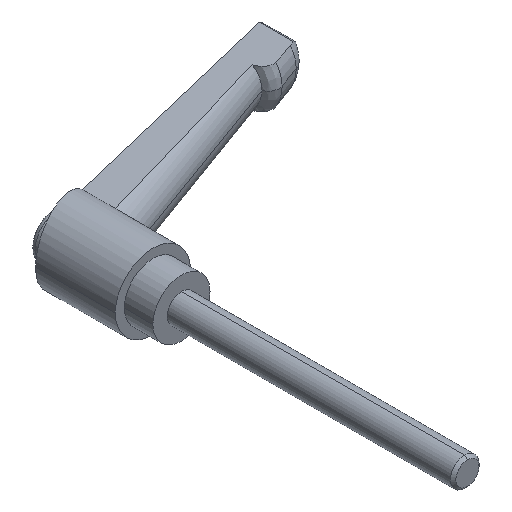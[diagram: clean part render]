
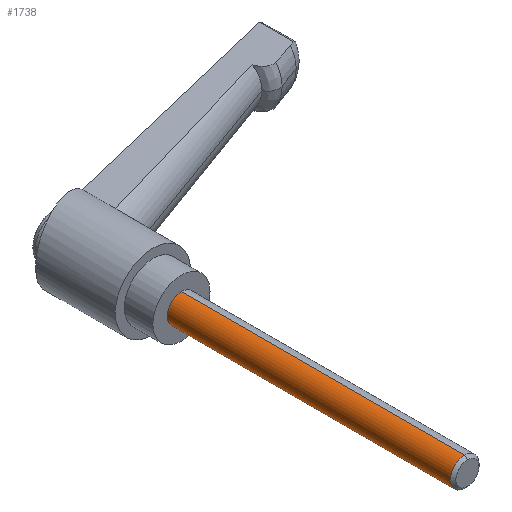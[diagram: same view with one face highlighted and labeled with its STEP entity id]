
A CAD part, isometric view. The second image highlights one B-rep face of the part: STEP entity #1738.
In plain terms, the highlighted cylindrical face has radius 4 mm (diameter 8 mm), a partial arc.
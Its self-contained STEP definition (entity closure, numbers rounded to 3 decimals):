
#45 = DIRECTION ( 'NONE',  ( 0., 0., -1. ) ) ;
#68 = AXIS2_PLACEMENT_3D ( 'NONE', #444, #2132, #45 ) ;
#151 = ORIENTED_EDGE ( 'NONE', *, *, #712, .T. ) ;
#385 = CARTESIAN_POINT ( 'NONE',  ( 0., -80., 4. ) ) ;
#433 = LINE ( 'NONE', #814, #2591 ) ;
#444 = CARTESIAN_POINT ( 'NONE',  ( 0., 0., 0. ) ) ;
#593 = DIRECTION ( 'NONE',  ( 0., -1., 0. ) ) ;
#598 = CIRCLE ( 'NONE', #1659, 4. ) ;
#651 = CARTESIAN_POINT ( 'NONE',  ( 0., -79.233, 0. ) ) ;
#712 = EDGE_CURVE ( 'NONE', #2574, #1931, #433, .T. ) ;
#721 = CIRCLE ( 'NONE', #68, 4. ) ;
#814 = CARTESIAN_POINT ( 'NONE',  ( 0., -80., -4. ) ) ;
#1016 = CARTESIAN_POINT ( 'NONE',  ( 0., -80., 0. ) ) ;
#1030 = DIRECTION ( 'NONE',  ( 0., 1., 0. ) ) ;
#1067 = EDGE_LOOP ( 'NONE', ( #1522, #2048, #151, #1286 ) ) ;
#1234 = LINE ( 'NONE', #385, #1606 ) ;
#1286 = ORIENTED_EDGE ( 'NONE', *, *, #2225, .T. ) ;
#1356 = VERTEX_POINT ( 'NONE', #2495 ) ;
#1522 = ORIENTED_EDGE ( 'NONE', *, *, #2071, .F. ) ;
#1534 = DIRECTION ( 'NONE',  ( 0., -1., 0. ) ) ;
#1606 = VECTOR ( 'NONE', #593, 1000. ) ;
#1632 = FACE_OUTER_BOUND ( 'NONE', #1067, .T. ) ;
#1659 = AXIS2_PLACEMENT_3D ( 'NONE', #651, #1030, #1887 ) ;
#1662 = AXIS2_PLACEMENT_3D ( 'NONE', #1016, #1534, #2350 ) ;
#1738 = ADVANCED_FACE ( 'NONE', ( #1632 ), #2026, .T. ) ;
#1845 = DIRECTION ( 'NONE',  ( 0., -1., 0. ) ) ;
#1887 = DIRECTION ( 'NONE',  ( 0., 0., -1. ) ) ;
#1888 = CARTESIAN_POINT ( 'NONE',  ( 0., -79.233, -4. ) ) ;
#1917 = EDGE_CURVE ( 'NONE', #1356, #2574, #721, .T. ) ;
#1931 = VERTEX_POINT ( 'NONE', #1888 ) ;
#2026 = CYLINDRICAL_SURFACE ( 'NONE', #1662, 4. ) ;
#2028 = CARTESIAN_POINT ( 'NONE',  ( 0., 0., -4. ) ) ;
#2048 = ORIENTED_EDGE ( 'NONE', *, *, #1917, .T. ) ;
#2067 = CARTESIAN_POINT ( 'NONE',  ( 0., -79.233, 4. ) ) ;
#2071 = EDGE_CURVE ( 'NONE', #1356, #2427, #1234, .T. ) ;
#2132 = DIRECTION ( 'NONE',  ( 0., -1., 0. ) ) ;
#2225 = EDGE_CURVE ( 'NONE', #1931, #2427, #598, .T. ) ;
#2350 = DIRECTION ( 'NONE',  ( 0., 0., -1. ) ) ;
#2427 = VERTEX_POINT ( 'NONE', #2067 ) ;
#2495 = CARTESIAN_POINT ( 'NONE',  ( 0., 0., 4. ) ) ;
#2574 = VERTEX_POINT ( 'NONE', #2028 ) ;
#2591 = VECTOR ( 'NONE', #1845, 1000. ) ;
